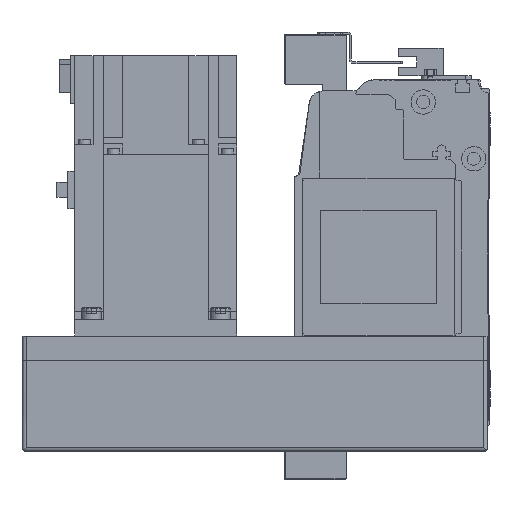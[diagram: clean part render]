
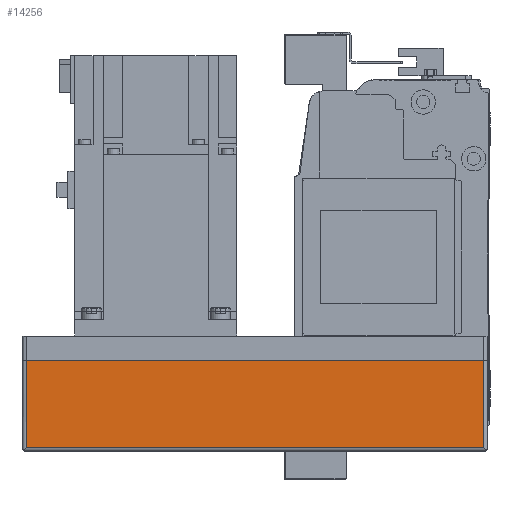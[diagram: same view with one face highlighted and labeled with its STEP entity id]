
A CAD part, left-side view. The second image highlights one B-rep face of the part: STEP entity #14256.
In plain terms, the highlighted planar face has unit normal (-1, 0, 0) as drawn and (0, -1, 0) by its records, which use the part's own axes.
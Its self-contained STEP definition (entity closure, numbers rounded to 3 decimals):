
#2451=ORIENTED_EDGE('',*,*,#5836,.F.);
#2452=ORIENTED_EDGE('',*,*,#5839,.T.);
#2453=ORIENTED_EDGE('',*,*,#5840,.T.);
#2454=ORIENTED_EDGE('',*,*,#5841,.F.);
#5836=EDGE_CURVE('',#7659,#7660,#9155,.T.);
#5839=EDGE_CURVE('',#7659,#7662,#9157,.T.);
#5840=EDGE_CURVE('',#7662,#7663,#9158,.T.);
#5841=EDGE_CURVE('',#7660,#7663,#9159,.T.);
#7659=VERTEX_POINT('',#22387);
#7660=VERTEX_POINT('',#22389);
#7662=VERTEX_POINT('',#22395);
#7663=VERTEX_POINT('',#22397);
#9155=LINE('',#22388,#10468);
#9157=LINE('',#22394,#10470);
#9158=LINE('',#22396,#10471);
#9159=LINE('',#22398,#10472);
#10468=VECTOR('',#17854,1000.);
#10470=VECTOR('',#17860,1000.);
#10471=VECTOR('',#17861,1000.);
#10472=VECTOR('',#17862,1000.);
#11592=EDGE_LOOP('',(#2451,#2452,#2453,#2454));
#12703=FACE_BOUND('',#11592,.T.);
#13664=PLANE('',#15306);
#14256=ADVANCED_FACE('',(#12703),#13664,.T.);
#15306=AXIS2_PLACEMENT_3D('',#22393,#17858,#17859);
#17854=DIRECTION('',(0.,0.,1.));
#17858=DIRECTION('',(0.,-1.,0.));
#17859=DIRECTION('',(0.,0.,-1.));
#17860=DIRECTION('',(1.,0.,0.));
#17861=DIRECTION('',(0.,0.,1.));
#17862=DIRECTION('',(1.,0.,0.));
#22387=CARTESIAN_POINT('',(-228.,-54.,-55.));
#22388=CARTESIAN_POINT('',(-228.,-54.,-57.));
#22389=CARTESIAN_POINT('',(-228.,-54.,-12.));
#22393=CARTESIAN_POINT('',(-228.,-54.,-57.));
#22394=CARTESIAN_POINT('',(-230.,-54.,-55.));
#22395=CARTESIAN_POINT('',(-2.,-54.,-55.));
#22396=CARTESIAN_POINT('',(-2.,-54.,-57.));
#22397=CARTESIAN_POINT('',(-2.,-54.,-12.));
#22398=CARTESIAN_POINT('',(-228.,-54.,-12.));
